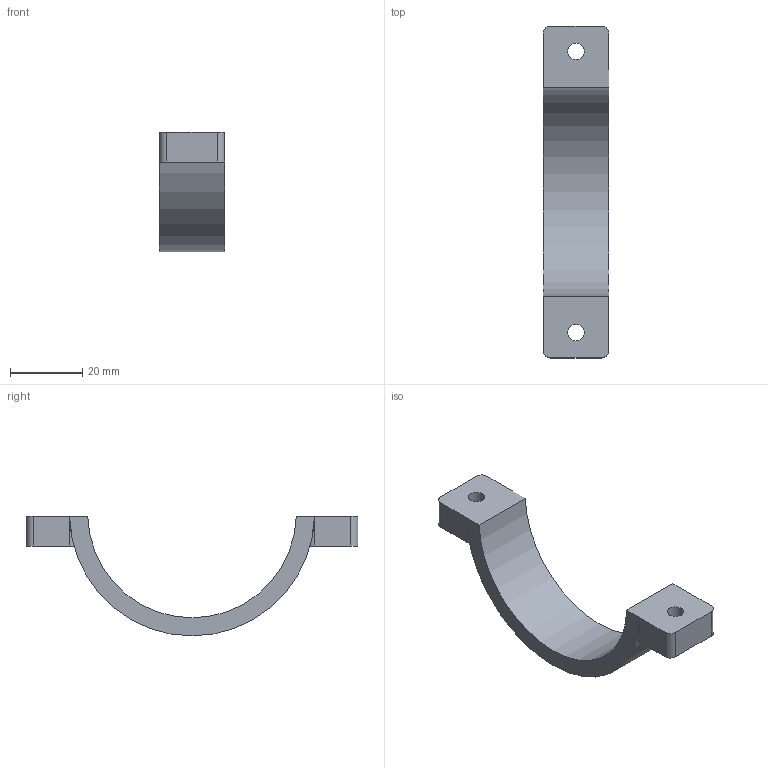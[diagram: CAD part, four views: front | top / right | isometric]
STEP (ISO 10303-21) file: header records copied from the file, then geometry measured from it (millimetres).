
FILE_DESCRIPTION(('Open CASCADE Model'),'2;1');
FILE_NAME('Open CASCADE Shape Model','2026-09-18T15:14:32',('Author'),( 'Open CASCADE'),'Open CASCADE STEP processor 7.9','Open CASCADE 7.9' ,'Unknown');
FILE_SCHEMA(('AUTOMOTIVE_DESIGN { 1 0 10303 214 1 1 1 1 }'));
Length unit declared in the file: millimetre
Products named in the file (1): Open CASCADE STEP translator 7.9 2
Bounding box: 18 x 91.6 x 33.05 mm (x, y, z)
Volume: 11922.6 mm3; surface area: 6158.7 mm2
Topology: 1 solids, 1 shells, 38 faces, 102 edges, 68 vertices
Faces by surface type: plane 26, cylinder 12
Full cylindrical faces by diameter (mm): 4.5 x2
Entity records: 2736 total; most frequent: CARTESIAN_POINT 751, DIRECTION 346, LINE 208, VECTOR 208, ORIENTED_EDGE 204, PCURVE 204, DEFINITIONAL_REPRESENTATION 204, EDGE_CURVE 102
